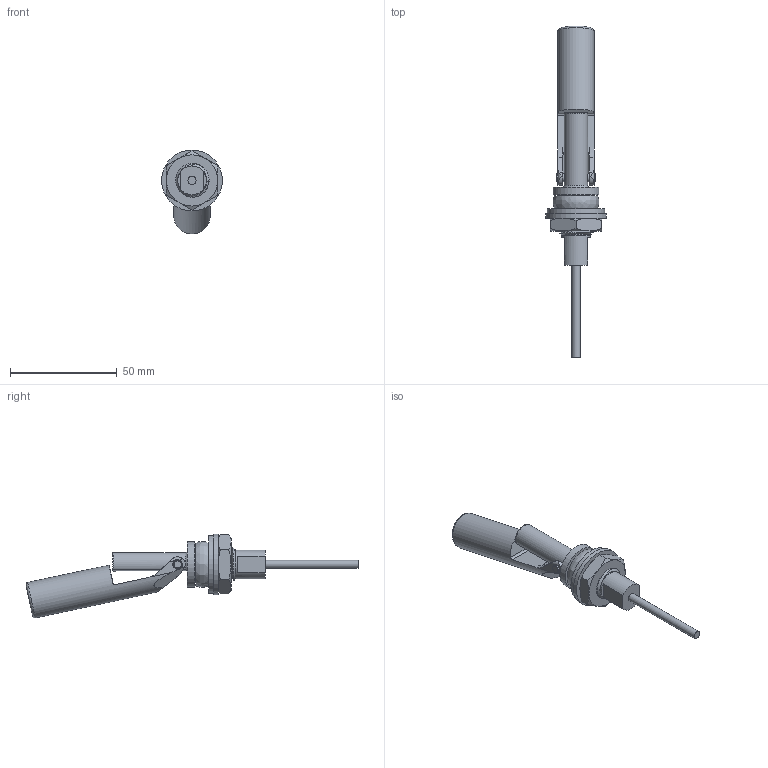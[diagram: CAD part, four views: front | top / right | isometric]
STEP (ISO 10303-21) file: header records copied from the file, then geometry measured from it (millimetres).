
FILE_DESCRIPTION(/* description */ ('Katalogmodell Elobau'),/* implementation_level */ '2;1');
FILE_NAME(/* name */ '207KS__D_A.stp',/* time_stamp */ '2014-10-01T14:04:49+02:00',/* author */ ('Elobau GmbH & Co. KG'),/* organization */ ('Elobau GmbH & Co. KG'),/* preprocessor_version */ 'ST-DEVELOPER v15',/* originating_system */ 'SIEMENS PLM Software NX 8.5',/* authorisation */ '');
FILE_SCHEMA (('AUTOMOTIVE_DESIGN { 1 0 10303 214 3 1 1 1 }'));
Length unit declared in the file: millimetre
Products named in the file (1): 207KS..D_A
Bounding box: 28.5 x 155.57 x 39.35 mm (x, y, z)
Volume: 25741.9 mm3; surface area: 9685.1 mm2
Topology: 2 solids, 2 shells, 108 faces, 270 edges, 176 vertices
Faces by surface type: plane 52, cylinder 28, cone 18, bspline 6, torus 3, sphere 1
Full cylindrical faces by diameter (mm): 3.8 x3, 13.4 x1, 17 x1, 21.5 x1, 27 x1, 28.5 x1
Entity records: 7039 total; most frequent: CARTESIAN_POINT 3887, ORIENTED_EDGE 492, DIRECTION 454, EDGE_CURVE 246, AXIS2_PLACEMENT_3D 180, VERTEX_POINT 169, EDGE_LOOP 136, PRESENTATION_STYLE_ASSIGNMENT 109
